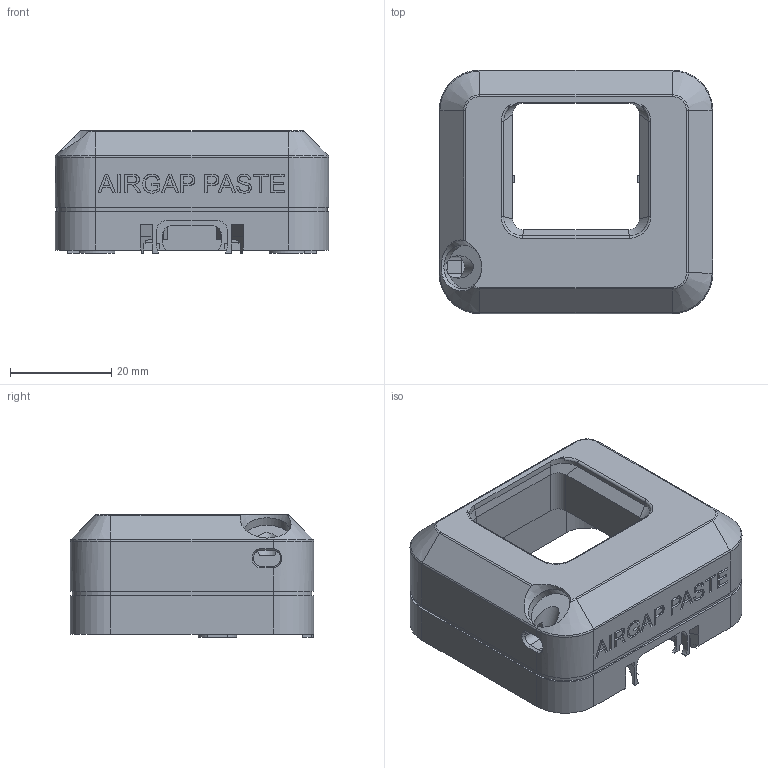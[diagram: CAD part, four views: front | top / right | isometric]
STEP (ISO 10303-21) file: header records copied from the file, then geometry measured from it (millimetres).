
FILE_DESCRIPTION(('Open CASCADE Model'),'2;1');
FILE_NAME('Open CASCADE Shape Model','2026-10-07T16:40:45',('Author'),( 'Open CASCADE'),'Open CASCADE STEP processor 7.9','Open CASCADE 7.9' ,'Unknown');
FILE_SCHEMA(('AUTOMOTIVE_DESIGN { 1 0 10303 214 1 1 1 1 }'));
Length unit declared in the file: millimetre
Products named in the file (1): Open CASCADE STEP translator 7.9 2
Bounding box: 54 x 48 x 24.2 mm (x, y, z)
Volume: 20558.6 mm3; surface area: 17537.1 mm2
Topology: 1 solids, 1 shells, 530 faces, 1438 edges, 932 vertices
Faces by surface type: plane 307, extrusion 100, cylinder 64, bspline 38, cone 13, torus 8
Full cylindrical faces by diameter (mm): 3.4 x4, 4.4 x1, 8.7 x1
Entity records: 37305 total; most frequent: CARTESIAN_POINT 11261, DIRECTION 3798, ORIENTED_EDGE 2876, PCURVE 2876, DEFINITIONAL_REPRESENTATION 2876, VECTOR 2591, LINE 2491, B_SPLINE_CURVE_WITH_KNOTS 1629
